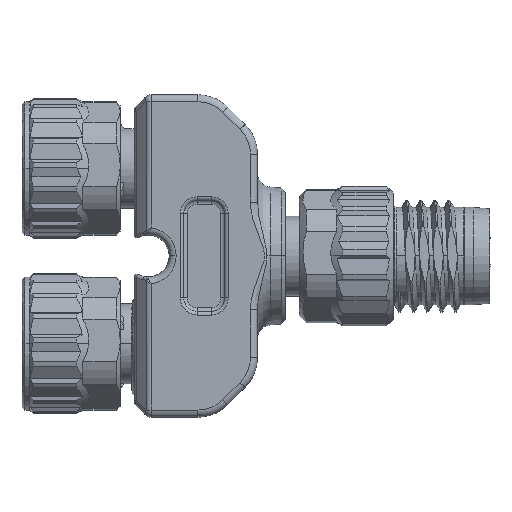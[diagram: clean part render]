
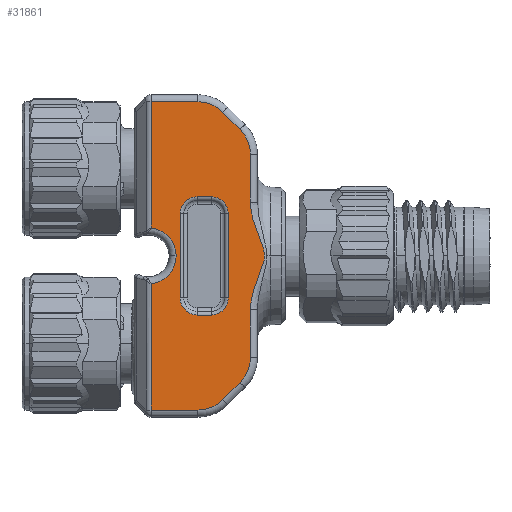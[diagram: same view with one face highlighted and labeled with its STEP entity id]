
A CAD part, top view. The second image highlights one B-rep face of the part: STEP entity #31861.
In plain terms, the highlighted planar face has unit normal (0, 0, 1).
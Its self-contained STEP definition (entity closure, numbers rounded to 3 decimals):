
#6680=DIRECTION('',(0.,-1.,0.));
#6681=VECTOR('',#6680,3.416);
#6682=CARTESIAN_POINT('',(2.5,-3.835,1.5));
#6683=LINE('',#6682,#6681);
#7049=DIRECTION('',(0.,-1.,0.));
#7050=VECTOR('',#7049,3.416);
#7051=CARTESIAN_POINT('',(2.5,7.263,1.5));
#7052=LINE('',#7051,#7050);
#7053=CARTESIAN_POINT('',(-1.243,8.506,1.5));
#7054=DIRECTION('',(0.,0.,1.));
#7055=DIRECTION('',(0.707,0.707,0.));
#7056=AXIS2_PLACEMENT_3D('',#7053,#7054,#7055);
#7058=DIRECTION('',(-0.707,0.707,0.));
#7059=VECTOR('',#7058,1.757);
#7060=CARTESIAN_POINT('',(1.768,9.031,1.5));
#7061=LINE('',#7060,#7059);
#7062=CARTESIAN_POINT('',(0.,7.263,1.5));
#7063=DIRECTION('',(0.,0.,1.));
#7064=DIRECTION('',(1.,0.,0.));
#7065=AXIS2_PLACEMENT_3D('',#7062,#7063,#7064);
#7067=CARTESIAN_POINT('',(2.5,-3.835,1.5));
#7068=CARTESIAN_POINT('',(2.5,-3.489,1.5));
#7069=CARTESIAN_POINT('',(2.599,-2.809,1.5));
#7070=CARTESIAN_POINT('',(2.913,-1.848,1.5));
#7071=CARTESIAN_POINT('',(3.299,-0.94,1.5));
#7072=CARTESIAN_POINT('',(3.61,0.006,1.5));
#7073=CARTESIAN_POINT('',(3.299,0.952,1.5));
#7074=CARTESIAN_POINT('',(2.913,1.86,1.5));
#7075=CARTESIAN_POINT('',(2.599,2.821,1.5));
#7076=CARTESIAN_POINT('',(2.5,3.501,1.5));
#7077=CARTESIAN_POINT('',(2.5,3.847,1.5));
#7079=CARTESIAN_POINT('',(0.,-7.251,1.5));
#7080=DIRECTION('',(0.,0.,1.));
#7081=DIRECTION('',(0.707,-0.707,0.));
#7082=AXIS2_PLACEMENT_3D('',#7079,#7080,#7081);
#7084=DIRECTION('',(0.707,0.707,0.));
#7085=VECTOR('',#7084,1.757);
#7086=CARTESIAN_POINT('',(0.525,-10.262,1.5));
#7087=LINE('',#7086,#7085);
#7088=CARTESIAN_POINT('',(-1.243,-8.494,1.5));
#7089=DIRECTION('',(0.,0.,1.));
#7090=DIRECTION('',(0.,-1.,0.));
#7091=AXIS2_PLACEMENT_3D('',#7088,#7089,#7090);
#7093=CARTESIAN_POINT('',(-4.8,0.006,1.5));
#7094=DIRECTION('',(0.,0.,-1.));
#7095=DIRECTION('',(1.,0.001,0.));
#7096=AXIS2_PLACEMENT_3D('',#7093,#7094,#7095);
#7098=CARTESIAN_POINT('',(-4.8,0.006,1.5));
#7099=DIRECTION('',(0.,0.,-1.));
#7100=DIRECTION('',(0.104,0.995,0.));
#7101=AXIS2_PLACEMENT_3D('',#7098,#7099,#7100);
#7103=CARTESIAN_POINT('',(-1.3,-2.994,1.5));
#7104=DIRECTION('',(0.,0.,-1.));
#7105=DIRECTION('',(0.,-1.,0.));
#7106=AXIS2_PLACEMENT_3D('',#7103,#7104,#7105);
#7108=CARTESIAN_POINT('',(-0.3,-2.994,1.5));
#7109=DIRECTION('',(0.,0.,-1.));
#7110=DIRECTION('',(1.,0.,0.));
#7111=AXIS2_PLACEMENT_3D('',#7108,#7109,#7110);
#7113=CARTESIAN_POINT('',(-0.3,3.006,1.5));
#7114=DIRECTION('',(0.,0.,-1.));
#7115=DIRECTION('',(0.,1.,0.));
#7116=AXIS2_PLACEMENT_3D('',#7113,#7114,#7115);
#7118=CARTESIAN_POINT('',(-1.3,3.006,1.5));
#7119=DIRECTION('',(0.,0.,-1.));
#7120=DIRECTION('',(-1.,0.,0.));
#7121=AXIS2_PLACEMENT_3D('',#7118,#7119,#7120);
#7123=DIRECTION('',(0.,1.,0.));
#7124=VECTOR('',#7123,9.011);
#7125=CARTESIAN_POINT('',(-4.593,1.995,1.5));
#7126=LINE('',#7125,#7124);
#7132=CARTESIAN_POINT('',(-4.593,1.995,1.5));
#7252=CARTESIAN_POINT('',(-4.593,-1.983,1.5));
#7259=DIRECTION('',(0.,1.,0.));
#7260=VECTOR('',#7259,9.011);
#7261=CARTESIAN_POINT('',(-4.593,-10.994,1.5));
#7262=LINE('',#7261,#7260);
#7349=DIRECTION('',(-1.,0.,0.));
#7350=VECTOR('',#7349,3.35);
#7351=CARTESIAN_POINT('',(-1.243,-10.994,1.5));
#7352=LINE('',#7351,#7350);
#19517=DIRECTION('',(1.,0.,0.));
#19518=VECTOR('',#19517,3.35);
#19519=CARTESIAN_POINT('',(-4.593,11.006,1.5));
#19520=LINE('',#19519,#19518);
#19625=DIRECTION('',(0.,-1.,0.));
#19626=VECTOR('',#19625,6.);
#19627=CARTESIAN_POINT('',(-2.52,3.006,1.5));
#19628=LINE('',#19627,#19626);
#19648=DIRECTION('',(-1.,0.,0.));
#19649=VECTOR('',#19648,1.);
#19650=CARTESIAN_POINT('',(-0.3,4.226,1.5));
#19651=LINE('',#19650,#19649);
#19671=DIRECTION('',(0.,1.,0.));
#19672=VECTOR('',#19671,6.);
#19673=CARTESIAN_POINT('',(0.92,-2.994,1.5));
#19674=LINE('',#19673,#19672);
#19708=DIRECTION('',(1.,0.,0.));
#19709=VECTOR('',#19708,1.);
#19710=CARTESIAN_POINT('',(-1.3,-4.214,1.5));
#19711=LINE('',#19710,#19709);
#22621=CARTESIAN_POINT('',(-0.3,4.226,1.5));
#22622=CARTESIAN_POINT('',(0.92,3.006,1.5));
#22623=VERTEX_POINT('',#22621);
#22624=VERTEX_POINT('',#22622);
#22809=VERTEX_POINT('',#7252);
#23212=CARTESIAN_POINT('',(-4.593,11.006,1.5));
#23214=VERTEX_POINT('',#23212);
#23289=CARTESIAN_POINT('',(-1.3,4.226,1.5));
#23291=VERTEX_POINT('',#23289);
#23292=CARTESIAN_POINT('',(-4.593,-10.994,1.5));
#23293=VERTEX_POINT('',#23292);
#23504=CARTESIAN_POINT('',(-2.52,3.006,1.5));
#23505=CARTESIAN_POINT('',(-2.52,-2.994,1.5));
#23506=VERTEX_POINT('',#23504);
#23507=VERTEX_POINT('',#23505);
#23726=CARTESIAN_POINT('',(-1.243,11.006,1.5));
#23727=VERTEX_POINT('',#23726);
#23739=CARTESIAN_POINT('',(2.5,-3.835,1.5));
#23740=CARTESIAN_POINT('',(2.5,-7.251,1.5));
#23741=VERTEX_POINT('',#23739);
#23742=VERTEX_POINT('',#23740);
#24138=CARTESIAN_POINT('',(2.5,7.263,1.5));
#24139=CARTESIAN_POINT('',(1.768,9.031,1.5));
#24140=VERTEX_POINT('',#24138);
#24141=VERTEX_POINT('',#24139);
#24545=CARTESIAN_POINT('',(2.5,3.847,1.5));
#24546=VERTEX_POINT('',#24545);
#24861=CARTESIAN_POINT('',(0.525,10.274,1.5));
#24862=VERTEX_POINT('',#24861);
#24895=CARTESIAN_POINT('',(-1.3,-4.214,1.5));
#24896=VERTEX_POINT('',#24895);
#24953=CARTESIAN_POINT('',(1.768,-9.019,1.5));
#24954=VERTEX_POINT('',#24953);
#25382=CARTESIAN_POINT('',(-0.3,-4.214,1.5));
#25383=VERTEX_POINT('',#25382);
#25415=CARTESIAN_POINT('',(-1.243,-10.994,1.5));
#25416=VERTEX_POINT('',#25415);
#25639=VERTEX_POINT('',#7132);
#25699=CARTESIAN_POINT('',(-2.8,0.008,1.5));
#25700=VERTEX_POINT('',#25699);
#25757=CARTESIAN_POINT('',(0.92,-2.994,1.5));
#25758=VERTEX_POINT('',#25757);
#26182=CARTESIAN_POINT('',(0.525,-10.262,1.5));
#26183=VERTEX_POINT('',#26182);
#31811=CARTESIAN_POINT('',(3.668,-11.434,1.5));
#31812=DIRECTION('',(0.,0.,1.));
#31813=DIRECTION('',(0.,1.,0.));
#31814=AXIS2_PLACEMENT_3D('',#31811,#31812,#31813);
#31815=PLANE('',#31814);
#31817=ORIENTED_EDGE('',*,*,#31816,.T.);
#31819=ORIENTED_EDGE('',*,*,#31818,.T.);
#31820=ORIENTED_EDGE('',*,*,#31482,.F.);
#31821=ORIENTED_EDGE('',*,*,#31498,.F.);
#31823=ORIENTED_EDGE('',*,*,#31822,.F.);
#31824=ORIENTED_EDGE('',*,*,#31804,.T.);
#31825=ORIENTED_EDGE('',*,*,#31094,.F.);
#31826=ORIENTED_EDGE('',*,*,#31111,.T.);
#31828=ORIENTED_EDGE('',*,*,#31827,.F.);
#31830=ORIENTED_EDGE('',*,*,#31829,.F.);
#31832=ORIENTED_EDGE('',*,*,#31831,.F.);
#31834=ORIENTED_EDGE('',*,*,#31833,.T.);
#31836=ORIENTED_EDGE('',*,*,#31835,.T.);
#31838=ORIENTED_EDGE('',*,*,#31837,.F.);
#31840=ORIENTED_EDGE('',*,*,#31839,.F.);
#31841=EDGE_LOOP('',(#31817,#31819,#31820,#31821,#31823,#31824,#31825,#31826,
#31828,#31830,#31832,#31834,#31836,#31838,#31840));
#31842=FACE_OUTER_BOUND('',#31841,.F.);
#31844=ORIENTED_EDGE('',*,*,#31843,.F.);
#31846=ORIENTED_EDGE('',*,*,#31845,.T.);
#31848=ORIENTED_EDGE('',*,*,#31847,.F.);
#31850=ORIENTED_EDGE('',*,*,#31849,.T.);
#31852=ORIENTED_EDGE('',*,*,#31851,.F.);
#31854=ORIENTED_EDGE('',*,*,#31853,.T.);
#31856=ORIENTED_EDGE('',*,*,#31855,.F.);
#31858=ORIENTED_EDGE('',*,*,#31857,.T.);
#31859=EDGE_LOOP('',(#31844,#31846,#31848,#31850,#31852,#31854,#31856,#31858));
#31860=FACE_BOUND('',#31859,.F.);
#31861=ADVANCED_FACE('',(#31842,#31860),#31815,.T.);
#7057=CIRCLE('',#7056,2.5);
#7066=CIRCLE('',#7065,2.5);
#7078=B_SPLINE_CURVE_WITH_KNOTS('',3,(#7067,#7068,#7069,#7070,#7071,#7072,#7073,
#7074,#7075,#7076,#7077),.UNSPECIFIED.,.F.,.F.,(4,1,1,1,1,1,1,1,4),(0.,
0.125,0.25,0.375,0.5,0.625,0.75,0.875,1.),.UNSPECIFIED.);
#7083=CIRCLE('',#7082,2.5);
#7092=CIRCLE('',#7091,2.5);
#7097=CIRCLE('',#7096,2.);
#7102=CIRCLE('',#7101,2.);
#7107=CIRCLE('',#7106,1.22);
#7112=CIRCLE('',#7111,1.22);
#7117=CIRCLE('',#7116,1.22);
#7122=CIRCLE('',#7121,1.22);
#31094=EDGE_CURVE('',#23741,#24546,#7078,.T.);
#31111=EDGE_CURVE('',#23741,#23742,#6683,.T.);
#31482=EDGE_CURVE('',#24862,#23727,#7057,.T.);
#31498=EDGE_CURVE('',#24141,#24862,#7061,.T.);
#31804=EDGE_CURVE('',#24140,#24546,#7052,.T.);
#31816=EDGE_CURVE('',#25639,#23214,#7126,.T.);
#31818=EDGE_CURVE('',#23214,#23727,#19520,.T.);
#31822=EDGE_CURVE('',#24140,#24141,#7066,.T.);
#31827=EDGE_CURVE('',#24954,#23742,#7083,.T.);
#31829=EDGE_CURVE('',#26183,#24954,#7087,.T.);
#31831=EDGE_CURVE('',#25416,#26183,#7092,.T.);
#31833=EDGE_CURVE('',#25416,#23293,#7352,.T.);
#31835=EDGE_CURVE('',#23293,#22809,#7262,.T.);
#31837=EDGE_CURVE('',#25700,#22809,#7097,.T.);
#31839=EDGE_CURVE('',#25639,#25700,#7102,.T.);
#31843=EDGE_CURVE('',#24896,#23507,#7107,.T.);
#31845=EDGE_CURVE('',#24896,#25383,#19711,.T.);
#31847=EDGE_CURVE('',#25758,#25383,#7112,.T.);
#31849=EDGE_CURVE('',#25758,#22624,#19674,.T.);
#31851=EDGE_CURVE('',#22623,#22624,#7117,.T.);
#31853=EDGE_CURVE('',#22623,#23291,#19651,.T.);
#31855=EDGE_CURVE('',#23506,#23291,#7122,.T.);
#31857=EDGE_CURVE('',#23506,#23507,#19628,.T.);
